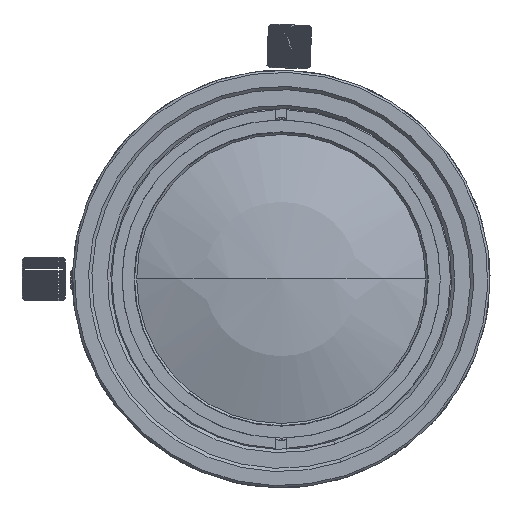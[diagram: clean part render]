
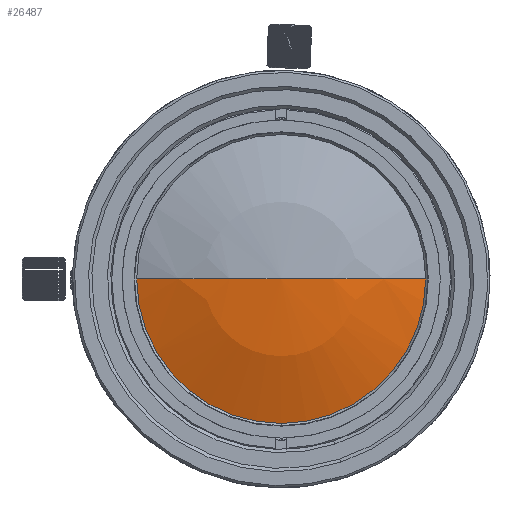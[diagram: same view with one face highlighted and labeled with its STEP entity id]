
A CAD part, left-side view. The second image highlights one B-rep face of the part: STEP entity #26487.
In plain terms, the highlighted spherical face has radius 37.482 mm.
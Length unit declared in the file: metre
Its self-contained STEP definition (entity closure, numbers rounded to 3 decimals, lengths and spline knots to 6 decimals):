
#26441=CARTESIAN_POINT('',(0.018211,0.,0.));
#26442=DIRECTION('',(1.,0.,0.));
#26443=DIRECTION('',(0.,-1.,0.));
#26444=AXIS2_PLACEMENT_3D('',#26441,#26442,#26443);
#26456=CARTESIAN_POINT('',(0.05298,0.,0.));
#26457=DIRECTION('',(0.,0.,1.));
#26458=DIRECTION('',(-1.,0.,0.));
#26459=AXIS2_PLACEMENT_3D('',#26456,#26457,#26458);
#26461=CARTESIAN_POINT('',(0.05298,0.,0.));
#26462=DIRECTION('',(0.,0.,-1.));
#26463=DIRECTION('',(-1.,0.,0.));
#26464=AXIS2_PLACEMENT_3D('',#26461,#26462,#26463);
#26466=CARTESIAN_POINT('',(0.018211,0.014,0.));
#26467=CARTESIAN_POINT('',(0.018211,-0.014,0.));
#26468=VERTEX_POINT('',#26466);
#26469=VERTEX_POINT('',#26467);
#26472=CARTESIAN_POINT('',(0.015498,0.,0.));
#26473=VERTEX_POINT('',#26472);
#26474=CARTESIAN_POINT('',(0.05298,0.,0.));
#26475=DIRECTION('',(1.,0.,0.));
#26476=DIRECTION('',(0.,-1.,0.));
#26477=AXIS2_PLACEMENT_3D('',#26474,#26475,#26476);
#26478=SPHERICAL_SURFACE('',#26477,0.037482);
#26480=ORIENTED_EDGE('',*,*,#26479,.T.);
#26482=ORIENTED_EDGE('',*,*,#26481,.F.);
#26484=ORIENTED_EDGE('',*,*,#26483,.T.);
#26485=EDGE_LOOP('',(#26480,#26482,#26484));
#26486=FACE_OUTER_BOUND('',#26485,.F.);
#26487=ADVANCED_FACE('',(#26486),#26478,.T.);
#26445=CIRCLE('',#26444,0.014);
#26460=CIRCLE('',#26459,0.037482);
#26465=CIRCLE('',#26464,0.037482);
#26479=EDGE_CURVE('',#26469,#26468,#26445,.T.);
#26481=EDGE_CURVE('',#26473,#26468,#26465,.T.);
#26483=EDGE_CURVE('',#26473,#26469,#26460,.T.);
